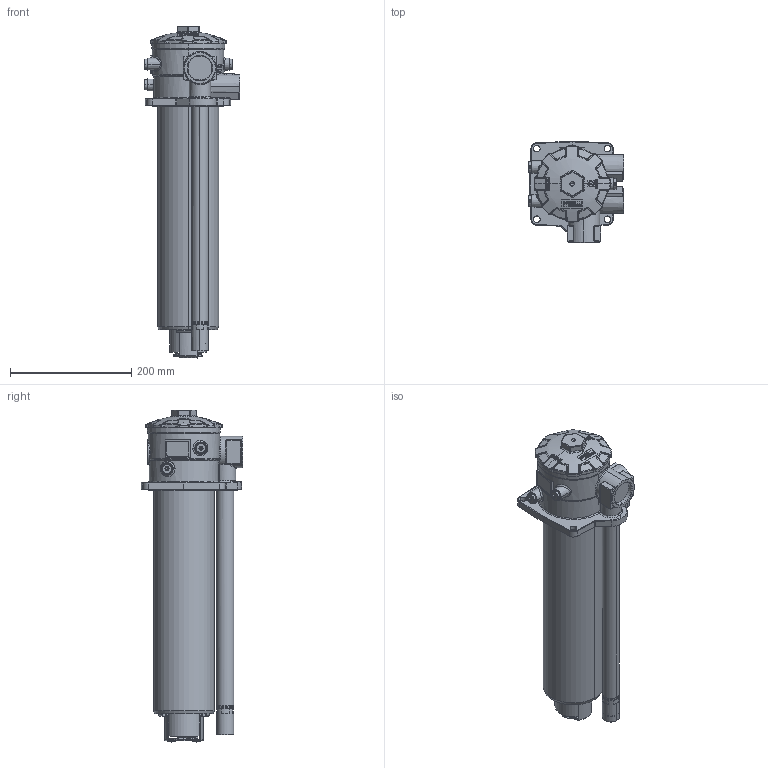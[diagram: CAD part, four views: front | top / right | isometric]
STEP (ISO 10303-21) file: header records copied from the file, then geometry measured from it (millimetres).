
FILE_DESCRIPTION((''),'2;1');
FILE_NAME('1000522714','2024-09-10T11:28:03',('g.topp'),(''),'CREO PARAMETRIC BY PTC INC, 2023254','CREO PARAMETRIC BY PTC INC, 2023254','');
FILE_SCHEMA(('AUTOMOTIVE_DESIGN { 1 0 10303 214 1 1 1 1 }'));
Length unit declared in the file: millimetre
Products named in the file (1): 1000522714
Bounding box: 158.25 x 167.5 x 548.1 mm (x, y, z)
Volume: 4856119.8 mm3; surface area: 306277 mm2
Topology: 1 solids, 10 shells, 2555 faces, 6564 edges, 4069 vertices
Faces by surface type: plane 1029, bspline 549, cylinder 464, torus 246, cone 124, sphere 112, extrusion 31
Entity records: 128493 total; most frequent: CARTESIAN_POINT 51089, ORIENTED_EDGE 13056, DIRECTION 10966, PRESENTATION_STYLE_ASSIGNMENT 6529, STYLED_ITEM 6529, CURVE_STYLE 6528, EDGE_CURVE 6528, AXIS2_PLACEMENT_3D 4432
